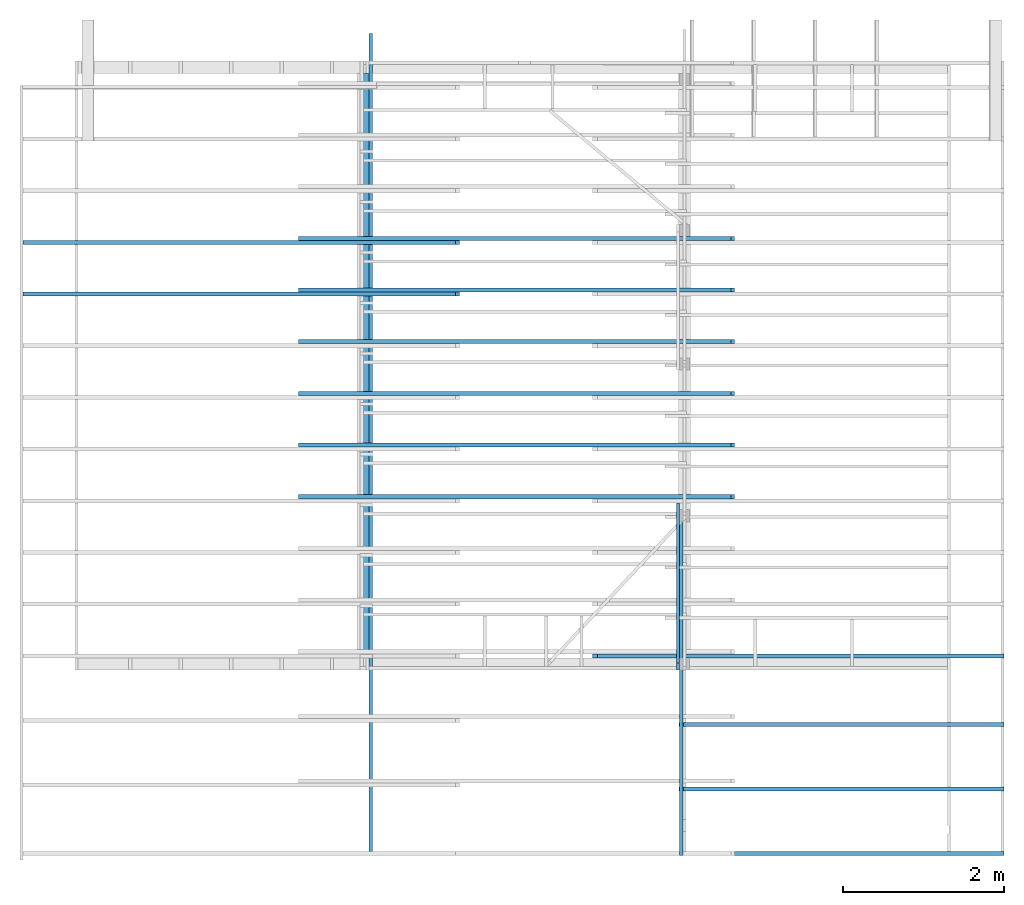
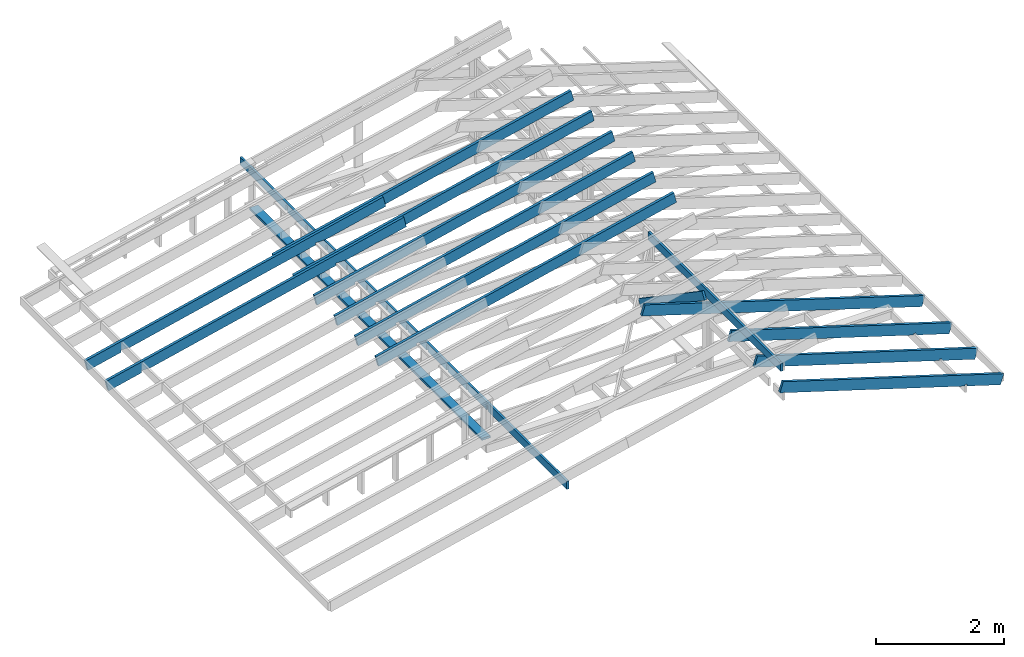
# One storey, part 3 of 6: 16 beams.
"""IFC4 building model written with IfcOpenShell, lengths in millimetres."""

import ifcopenshell
import ifcopenshell.guid

model = None  # the IFC model being written
_history = None  # IfcOwnerHistory: only IFC2X3 demands one
_inside = {}  # id of a spatial element -> (the spatial element, [elements in it])
_under = {}  # id of a project, library or spatial element -> (it, [spatial elements below it])
_declared = {}  # id of a project -> (the project, [libraries it declares])
_typed = {}  # id of a type object -> (the type object, [elements of that type])
_made_of = {}  # id of a material, layer set ... -> (it, [elements and type objects made of it])


def new_model(schema):
    """Start an empty IFC model of exactly this schema.

    Asked for "IFC4X3", IfcOpenShell would pick the latest addendum, in which some entities
    have other attributes; the version numbers below select the first issue.
    IFC2X3 requires an IfcOwnerHistory on every rooted entity: one is made here for all.
    """
    global model, _history
    if schema == "IFC4X3":
        model = ifcopenshell.file(schema_version=(4, 3, 0, 0))
    else:
        model = ifcopenshell.file(schema=schema)
    _inside.clear()
    _under.clear()
    _declared.clear()
    _typed.clear()
    _made_of.clear()
    _history = None
    if model.schema == "IFC2X3":
        org = make("IfcOrganization", Name="unknown")
        user = make(
            "IfcPersonAndOrganization",
            ThePerson=make("IfcPerson", FamilyName="unknown"),
            TheOrganization=org,
        )
        app = make(
            "IfcApplication",
            ApplicationDeveloper=org,
            Version="unknown",
            ApplicationFullName="unknown",
            ApplicationIdentifier="unknown",
        )
        _history = make(
            "IfcOwnerHistory",
            OwningUser=user,
            OwningApplication=app,
            ChangeAction="ADDED",
            CreationDate=0,
        )
    return model


def make(cls, **values):
    """One entity of the class cls with the attributes given. An attribute that is None is left unset."""
    return model.create_entity(
        cls, **{name: value for name, value in values.items() if value is not None}
    )


def rooted(cls, **values):
    """An entity with a GlobalId (a new one), such as an element, a storey or a relation."""
    return make(cls, GlobalId=ifcopenshell.guid.new(), OwnerHistory=_history, **values)


def si_unit(unit_type, name, prefix=None):
    """IfcSIUnit, for example si_unit("LENGTHUNIT", "METRE", prefix="MILLI")."""
    return make("IfcSIUnit", UnitType=unit_type, Prefix=prefix, Name=name)


def derived_unit(unit_type, elements):
    """IfcDerivedUnit: a product of units, each with its exponent."""
    return make(
        "IfcDerivedUnit",
        Elements=[
            make("IfcDerivedUnitElement", Unit=unit, Exponent=power)
            for unit, power in elements
        ],
        UnitType=unit_type,
    )


def assignment(units):
    """IfcUnitAssignment: the units of a project."""
    return None if units is None else make("IfcUnitAssignment", Units=units)


def point(xyz):
    """IfcCartesianPoint."""
    return None if xyz is None else make("IfcCartesianPoint", Coordinates=xyz)


def direction(xyz):
    """IfcDirection."""
    return None if xyz is None else make("IfcDirection", DirectionRatios=xyz)


def frame(location, z_axis=None, x_axis=None):
    """IfcAxis2Placement3D, a coordinate frame: its origin and axes. An axis left out is left unset."""
    return make(
        "IfcAxis2Placement3D",
        Location=point(location),
        Axis=direction(z_axis),
        RefDirection=direction(x_axis),
    )


def origin_with_axes():
    """The frame at (0, 0, 0) with the z axis (0, 0, 1) and the x axis (1, 0, 0) written out."""
    return frame((0.0, 0.0, 0.0), z_axis=(0.0, 0.0, 1.0), x_axis=(1.0, 0.0, 0.0))


def place(relative_to, where):
    """IfcLocalPlacement: puts the frame where relative to a parent placement (None: the world)."""
    return make(
        "IfcLocalPlacement", PlacementRelTo=relative_to, RelativePlacement=where
    )


def context(
    kind, dimensions, precision=None, world=None, true_north=None, identifier=None
):
    """IfcGeometricRepresentationContext, for example the 3D "Model" context."""
    return make(
        "IfcGeometricRepresentationContext",
        ContextIdentifier=identifier,
        ContextType=kind,
        CoordinateSpaceDimension=dimensions,
        Precision=precision,
        WorldCoordinateSystem=world,
        TrueNorth=true_north,
    )


def subcontext(parent, identifier, kind, view, scale=None):
    """IfcGeometricRepresentationSubContext, for example "Body" below "Model"."""
    return make(
        "IfcGeometricRepresentationSubContext",
        ContextIdentifier=identifier,
        ContextType=kind,
        ParentContext=parent,
        TargetScale=scale,
        TargetView=view,
    )


def project(units=None, contexts=None):
    """IfcProject with its units and contexts."""
    return rooted(
        "IfcProject",
        Name="project",
        RepresentationContexts=contexts,
        UnitsInContext=assignment(units),
    )


def spatial(cls, under=None, at=None, **own):
    """A site, building, storey or space (cls), placed at a placement, below another one or the project."""
    s = rooted(cls, ObjectPlacement=at, **own)
    if under is not None:
        _under.setdefault(under.id(), (under, []))[1].append(s)
    return s


def point_list(points):
    """IfcCartesianPointList2D or 3D."""
    cls = (
        "IfcCartesianPointList2D" if len(points[0]) == 2 else "IfcCartesianPointList3D"
    )
    return make(cls, CoordList=points)


def polygons(points, faces, closed=None, point_numbers=None):
    """IfcPolygonalFaceSet: a face is its outer loop, then its inner loops; points numbered from 1."""
    made = []
    for loops in faces:
        if len(loops) == 1:
            made.append(make("IfcIndexedPolygonalFace", CoordIndex=loops[0]))
        else:
            made.append(
                make(
                    "IfcIndexedPolygonalFaceWithVoids",
                    CoordIndex=loops[0],
                    InnerCoordIndices=loops[1:],
                )
            )
    return make(
        "IfcPolygonalFaceSet",
        Coordinates=point_list(points),
        Closed=closed,
        Faces=made,
        PnIndex=point_numbers,
    )


def shape(context_of_items, identifier, shape_type, items):
    """IfcShapeRepresentation: the items that make up one representation, for example the "Body"."""
    return make(
        "IfcShapeRepresentation",
        ContextOfItems=context_of_items,
        RepresentationIdentifier=identifier,
        RepresentationType=shape_type,
        Items=items,
    )


def source(mapping_origin, context_of_items, identifier, shape_type, items):
    """IfcRepresentationMap: a shape defined once, which mapped items show again and again."""
    return make(
        "IfcRepresentationMap",
        MappingOrigin=mapping_origin,
        MappedRepresentation=shape(context_of_items, identifier, shape_type, items),
    )


def transform(
    local_origin,
    x_axis=None,
    y_axis=None,
    z_axis=None,
    scale=None,
    scale2=None,
    scale3=None,
    uniform=True,
):
    """IfcCartesianTransformationOperator3D, or its non-uniform kind. x_axis, y_axis, z_axis: its Axis1, 2, 3."""
    if uniform:
        return make(
            "IfcCartesianTransformationOperator3D",
            Axis1=direction(x_axis),
            Axis2=direction(y_axis),
            LocalOrigin=point(local_origin),
            Scale=scale,
            Axis3=direction(z_axis),
        )
    return make(
        "IfcCartesianTransformationOperator3DnonUniform",
        Axis1=direction(x_axis),
        Axis2=direction(y_axis),
        LocalOrigin=point(local_origin),
        Scale=scale,
        Axis3=direction(z_axis),
        Scale2=scale2,
        Scale3=scale3,
    )


def mapped(mapping_source, mapping_target):
    """IfcMappedItem: shows the shape of a source again, moved by a transform."""
    return make(
        "IfcMappedItem", MappingSource=mapping_source, MappingTarget=mapping_target
    )


def material(Name=None, Category=None):
    """IfcMaterial."""
    return make("IfcMaterial", Name=Name, Category=Category)


def made_of(thing, what):
    """Note that an element or type object is made of a material, layer set ...; save() writes the relation."""
    if what is not None:
        _made_of.setdefault(what.id(), (what, []))[1].append(thing)
    return thing


def type_object(cls, material=None, **own):
    """A type object (cls), such as IfcWallType, which elements share."""
    return made_of(rooted(cls, **own), material)


def element(
    cls,
    number,
    at=None,
    inside=None,
    cuts=None,
    type_object=None,
    material=None,
    context=None,
    identifier="Body",
    shape_type=None,
    held_by="IfcProductDefinitionShape",
    body=None,
    shapes=None,
    **own,
):
    """One element of the class cls, such as IfcWall. Its Tag is "e" and its number.

    at: its placement. inside: the storey or other place that contains it. cuts: it is an
    opening in that element (IfcRelVoidsElement). A single representation is given by context,
    identifier, shape_type and body (its items); several are given by shapes. held_by: the class
    of the entity that holds the representations. save() writes the other relations.
    """
    e = rooted(cls, Tag="e%d" % number, ObjectPlacement=at, **own)
    if body is not None:
        shapes = [shape(context, identifier, shape_type, body)]
    if shapes is not None:
        e.Representation = make(held_by, Representations=shapes)
    if inside is not None:
        _inside.setdefault(inside.id(), (inside, []))[1].append(e)
    if cuts is not None:
        rooted(
            "IfcRelVoidsElement", RelatingBuildingElement=cuts, RelatedOpeningElement=e
        )
    if type_object is not None:
        _typed.setdefault(type_object.id(), (type_object, []))[1].append(e)
    return made_of(e, material)


def aggregate(whole, parts):
    """IfcRelAggregates: a whole, such as a stair, and the parts it consists of."""
    return rooted("IfcRelAggregates", RelatingObject=whole, RelatedObjects=parts)


def save(model, path):
    """Write the relations noted so far, then the file.

    IfcRelAggregates (storeys below a building ...), IfcRelContainedInSpatialStructure (elements
    in a storey), IfcRelDefinesByType, IfcRelAssociatesMaterial and IfcRelDeclares: one each for
    every whole, place, type object, material and project.
    """
    for whole, parts in _under.values():
        aggregate(whole, parts)
    for where, things in _inside.values():
        rooted(
            "IfcRelContainedInSpatialStructure",
            RelatedElements=things,
            RelatingStructure=where,
        )
    for kind, things in _typed.values():
        rooted("IfcRelDefinesByType", RelatedObjects=things, RelatingType=kind)
    for what, things in _made_of.values():
        rooted("IfcRelAssociatesMaterial", RelatedObjects=things, RelatingMaterial=what)
    for by, libraries in _declared.values():
        rooted("IfcRelDeclares", RelatingContext=by, RelatedDefinitions=libraries)
    model.write(path)


model = new_model("IFC4")

# Units and contexts
model_context = context("Model", 3, precision=1e-06, world=origin_with_axes())
body_context = subcontext(model_context, "Body", "Model", "MODEL_VIEW")
ifc_project = project(units=[si_unit("LENGTHUNIT", "METRE", prefix="MILLI"), si_unit("AREAUNIT", "SQUARE_METRE"), si_unit("VOLUMEUNIT", "CUBIC_METRE"), si_unit("MASSUNIT", "GRAM", prefix="KILO"), si_unit("ELECTRICVOLTAGEUNIT", "VOLT", prefix="KILO"), si_unit("THERMODYNAMICTEMPERATUREUNIT", "DEGREE_CELSIUS"), si_unit("PRESSUREUNIT", "PASCAL", prefix="MEGA"), si_unit("PLANEANGLEUNIT", "RADIAN"), derived_unit("THERMALCONDUCTANCEUNIT", [(si_unit("POWERUNIT", "WATT"), 1), (si_unit("LENGTHUNIT", "METRE"), -1), (si_unit("THERMODYNAMICTEMPERATUREUNIT", "KELVIN"), -1)]), derived_unit("MASSDENSITYUNIT", [(si_unit("MASSUNIT", "GRAM", prefix="KILO"), 1), (si_unit("VOLUMEUNIT", "CUBIC_METRE"), -1)])], contexts=[model_context])

# Site, building, storey
site_placement = place(None, origin_with_axes())
site = spatial("IfcSite", under=ifc_project, at=site_placement, CompositionType="ELEMENT")
building_placement = place(site_placement, origin_with_axes())
building = spatial("IfcBuilding", under=site, at=building_placement, CompositionType="ELEMENT")
storey_placement = place(building_placement, frame((0.0, 0.0, 2620.0), z_axis=(0.0, 0.0, 1.0), x_axis=(1.0, 0.0, 0.0)))
storey = spatial("IfcBuildingStorey", under=building, at=storey_placement, Name="Кровля", CompositionType="ELEMENT", Elevation=2620.0)

# Beams
ifc_material_1 = material(Name="Древесина оранж")
beam_type_1 = type_object("IfcBeamType", Name="Доска 50х200", PredefinedType="BEAM")
shared_shape_1 = source(origin_with_axes(), body_context, "Body", "Tessellation", [
    polygons([(-8e-15, -1.99e-13, -4607.7351247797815), (-9.09e-13, 22.174739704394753, -4600.75673698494), (-9.09e-13, 34.182184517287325, -4638.911962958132), (-8e-15, -2.04e-13, -4649.669092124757), (0.0, 0.0, -5278.678602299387), (-2.8e-14, 200.0000000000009, -5278.678602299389), (-2.8e-14, 199.9999999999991, -9.09e-13), (0.0, 0.0, 0.0), (-50.00000000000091, 22.174739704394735, -4600.75673698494), (-50.0, -9.9e-14, -4607.7351247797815), (-50.0, 0.0, 0.0), (-50.00000000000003, 199.9999999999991, -9.09e-13), (-50.00000000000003, 200.0000000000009, -5278.678602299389), (-50.0, 0.0, -5278.678602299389), (-50.0, -1e-13, -4649.669092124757), (-50.000000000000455, 34.18218451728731, -4638.911962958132)], [[[1, 2, 3, 4, 5, 6, 7, 8]], [[9, 10, 11, 12, 13, 14, 15, 16]], [[10, 1, 8, 11]], [[4, 15, 14, 5]], [[15, 4, 3, 16]], [[9, 16, 3, 2]], [[1, 10, 9, 2]], [[5, 14, 13, 6]], [[12, 7, 6, 13]], [[8, 7, 12, 11]]], closed=True),
])
beam_1_placement = place(storey_placement, frame((6409.770627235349, 149.99999999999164, 1509.9312603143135), z_axis=(-0.953880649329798, 1e-15, 0.300186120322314), x_axis=(0.300186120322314, 0.0, 0.953880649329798)))
element("IfcBeam", 1, at=beam_1_placement, inside=storey, type_object=beam_type_1, material=ifc_material_1, Name="Балка - Доска 50х200", context=body_context, shape_type="MappedRepresentation", body=[
    mapped(shared_shape_1, transform((0.0, 0.0, 0.0), x_axis=(0.0, -1.0, 0.0), y_axis=(1.0, 0.0, 0.0), z_axis=(0.0, 0.0, 1.0), scale=1.0)),
])
ifc_material_2 = material(Name="Древесина конструктивная")
beam_type_2 = type_object("IfcBeamType", Name="Доска 40х150", PredefinedType="BEAM")
shared_shape_2 = source(origin_with_axes(), body_context, "Body", "Tessellation", [
    polygons([(-150.0, 0.0, 0.0), (-150.0, 40.0, 0.0), (-150.0, 40.0, -7239.999999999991), (-150.0, 0.0, -7239.999999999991), (0.0, 40.0, 0.0), (0.0, 40.0, -7239.999999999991), (0.0, 0.0, 0.0), (0.0, 0.0, -7239.999999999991)], [[[1, 2, 3, 4]], [[2, 5, 6, 3]], [[5, 7, 8, 6]], [[7, 1, 4, 8]], [[4, 3, 6, 8]], [[1, 7, 5, 2]]], closed=True),
])
beam_2_placement = place(storey_placement, frame((3532.5, 7389.99999999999, 150.0), z_axis=(0.0, 1.0, 0.0), x_axis=(-1.0, 0.0, 0.0)))
element("IfcBeam", 2, at=beam_2_placement, inside=storey, type_object=beam_type_2, material=ifc_material_2, Name="Балка - Доска 40х150", context=body_context, shape_type="MappedRepresentation", body=[
    mapped(shared_shape_2, transform((0.0, 0.0, 0.0), x_axis=(1.0, 0.0, 0.0), y_axis=(0.0, 1.0, 0.0), z_axis=(0.0, 0.0, 1.0), scale=1.0)),
])
ifc_material_3 = material(Name="Древесина жел")
shared_shape_3 = source(origin_with_axes(), body_context, "Body", "Tessellation", [
    polygons([(20.0, 0.0, -2450.0000000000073), (20.000000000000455, 109.50802590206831, -2450.0000000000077), (20.000000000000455, 109.50802590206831, -2490.0000000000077), (20.0, 0.0, -2490.0000000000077), (20.0, 0.0, -3075.0000000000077), (20.000000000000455, 109.50802590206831, -3075.0000000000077), (20.000000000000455, 109.50802590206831, -3115.0000000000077), (20.0, 0.0, -3115.0000000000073), (20.0, 0.0, -3700.0000000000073), (20.000000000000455, 109.50802590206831, -3700.0000000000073), (20.000000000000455, 109.50802590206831, -3740.0000000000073), (20.0, 0.0, -3740.0000000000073), (20.0, 0.0, -4325.000000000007), (20.000000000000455, 109.50802590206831, -4325.000000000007), (20.000000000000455, 109.50802590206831, -4365.000000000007), (20.0, 0.0, -4365.000000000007), (20.0, 0.0, -4950.000000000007), (20.000000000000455, 109.50802590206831, -4950.000000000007), (20.000000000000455, 109.50802590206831, -4990.000000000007), (20.0, 0.0, -4990.000000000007), (20.0, 0.0, -5575.000000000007), (20.000000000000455, 109.50802590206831, -5575.000000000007), (20.000000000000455, 109.50802590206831, -5615.000000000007), (20.0, 0.0, -5615.000000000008), (20.0, 0.0, -6200.000000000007), (20.000000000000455, 109.50802590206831, -6200.000000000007), (20.000000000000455, 109.50802590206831, -6240.000000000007), (20.0, 0.0, -6240.000000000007), (20.0, 0.0, -6825.000000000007), (20.000000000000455, 109.50802590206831, -6825.000000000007), (20.000000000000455, 109.50802590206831, -6865.000000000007), (20.0, 1.4e-14, -6865.000000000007), (20.0, 0.0, -7450.000000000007), (20.000000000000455, 109.50802590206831, -7450.000000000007), (20.000000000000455, 109.50802590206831, -7490.000000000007), (20.0, 0.0, -7490.000000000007), (20.0, 0.0, -8075.000000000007), (20.000000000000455, 109.50802590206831, -8075.000000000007), (20.000000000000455, 109.50802590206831, -8115.000000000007), (20.0, 0.0, -8115.000000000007), (20.0, 0.0, -8700.000000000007), (20.000000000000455, 109.50802590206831, -8700.000000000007), (20.000000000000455, 109.50802590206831, -8740.000000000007), (20.0, 0.0, -8740.000000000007), (20.0, 0.0, -10179.99999999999), (20.0, 150.0, -10179.99999999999), (20.0, 150.0, 0.0), (20.0, 0.0, 0.0), (-20.0, 109.50802590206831, -2450.0000000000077), (-20.0, 0.0, -2450.0000000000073), (-20.0, 0.0, 0.0), (-20.0, 150.0, 0.0), (-20.0, 150.0, -10179.99999999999), (-20.0, 0.0, -10179.99999999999), (-19.999999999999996, 0.0, -8740.000000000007), (-20.0, 109.50802590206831, -8740.000000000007), (-20.0, 109.50802590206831, -8700.000000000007), (-19.999999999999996, 0.0, -8700.000000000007), (-19.999999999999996, 0.0, -8115.000000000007), (-20.0, 109.50802590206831, -8115.000000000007), (-20.0, 109.50802590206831, -8075.000000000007), (-20.0, 0.0, -8075.000000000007), (-20.0, 0.0, -7490.000000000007), (-20.0, 109.50802590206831, -7490.000000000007), (-20.0, 109.50802590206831, -7450.000000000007), (-20.0, 0.0, -7450.000000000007), (-20.0, 0.0, -6865.000000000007), (-20.0, 109.50802590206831, -6865.000000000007), (-20.0, 109.50802590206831, -6825.000000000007), (-20.0, 0.0, -6825.000000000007), (-20.0, 0.0, -6240.000000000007), (-20.0, 109.50802590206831, -6240.000000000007), (-20.0, 109.50802590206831, -6200.000000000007), (-20.0, 0.0, -6200.000000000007), (-20.0, 0.0, -5615.000000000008), (-20.0, 109.50802590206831, -5615.000000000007), (-20.0, 109.50802590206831, -5575.000000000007), (-20.0, 0.0, -5575.000000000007), (-20.0, 0.0, -4990.000000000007), (-20.0, 109.50802590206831, -4990.000000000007), (-20.0, 109.50802590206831, -4950.000000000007), (-20.0, 0.0, -4950.000000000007), (-19.999999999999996, 0.0, -4365.000000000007), (-20.0, 109.50802590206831, -4365.000000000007), (-20.0, 109.50802590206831, -4325.000000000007), (-20.0, 0.0, -4325.000000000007), (-20.0, 0.0, -3740.0000000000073), (-20.0, 109.50802590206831, -3740.0000000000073), (-20.0, 109.50802590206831, -3700.0000000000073), (-20.0, 0.0, -3700.0000000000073), (-20.0, 0.0, -3115.0000000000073), (-20.0, 109.50802590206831, -3115.0000000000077), (-20.0, 109.50802590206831, -3075.0000000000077), (-20.0, 0.0, -3075.0000000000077), (-20.0, 0.0, -2490.0000000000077), (-20.0, 109.50802590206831, -2490.0000000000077)], [[[1, 2, 3, 4, 5, 6, 7, 8, 9, 10, 11, 12, 13, 14, 15, 16, 17, 18, 19, 20, 21, 22, 23, 24, 25, 26, 27, 28, 29, 30, 31, 32, 33, 34, 35, 36, 37, 38, 39, 40, 41, 42, 43, 44, 45, 46, 47, 48]], [[49, 50, 51, 52, 53, 54, 55, 56, 57, 58, 59, 60, 61, 62, 63, 64, 65, 66, 67, 68, 69, 70, 71, 72, 73, 74, 75, 76, 77, 78, 79, 80, 81, 82, 83, 84, 85, 86, 87, 88, 89, 90, 91, 92, 93, 94, 95, 96]], [[50, 1, 48, 51]], [[4, 95, 94, 5]], [[8, 91, 90, 9]], [[12, 87, 86, 13]], [[16, 83, 82, 17]], [[20, 79, 78, 21]], [[24, 75, 74, 25]], [[28, 71, 70, 29]], [[32, 67, 66, 33]], [[36, 63, 62, 37]], [[40, 59, 58, 41]], [[44, 55, 54, 45]], [[57, 56, 43, 42]], [[55, 44, 43, 56]], [[41, 58, 57, 42]], [[61, 60, 39, 38]], [[59, 40, 39, 60]], [[37, 62, 61, 38]], [[65, 64, 35, 34]], [[63, 36, 35, 64]], [[33, 66, 65, 34]], [[69, 68, 31, 30]], [[67, 32, 31, 68]], [[29, 70, 69, 30]], [[73, 72, 27, 26]], [[71, 28, 27, 72]], [[25, 74, 73, 26]], [[77, 76, 23, 22]], [[75, 24, 23, 76]], [[21, 78, 77, 22]], [[81, 80, 19, 18]], [[79, 20, 19, 80]], [[17, 82, 81, 18]], [[85, 84, 15, 14]], [[83, 16, 15, 84]], [[13, 86, 85, 14]], [[89, 88, 11, 10]], [[87, 12, 11, 88]], [[9, 90, 89, 10]], [[93, 92, 7, 6]], [[91, 8, 7, 92]], [[5, 94, 93, 6]], [[49, 96, 3, 2]], [[95, 4, 3, 96]], [[1, 50, 49, 2]], [[45, 54, 53, 46]], [[52, 47, 46, 53]], [[48, 47, 52, 51]]], closed=True),
])
beam_3_placement = place(storey_placement, frame((3662.4999999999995, -2300.000000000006, 667.4919740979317), z_axis=(0.0, -1.0, 0.0), x_axis=(0.0, 0.0, 1.0)))
element("IfcBeam", 3, at=beam_3_placement, inside=storey, type_object=beam_type_2, material=ifc_material_3, Name="Балка - Доска 40х150", context=body_context, shape_type="MappedRepresentation", body=[
    mapped(shared_shape_3, transform((0.0, 0.0, 0.0), x_axis=(0.0, -1.0, 0.0), y_axis=(1.0, 0.0, 0.0), z_axis=(0.0, 0.0, 1.0), scale=1.0)),
])
shared_shape_4 = source(origin_with_axes(), body_context, "Body", "Tessellation", [
    polygons([(-2e-15, 1.926868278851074, -2398.2811635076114), (-15.0, 1.926868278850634, -2398.2811635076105), (-15.000000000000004, -5.6e-13, -2398.2811635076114), (-40.0, -9.09e-13, -2398.2811635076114), (-40.0, 149.99999999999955, -2398.2811635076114), (0.0, 149.9999999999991, -2398.2811635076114), (0.0, -7.12e-13, -2395.4393860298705), (0.0, 149.9999999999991, -4.55e-13), (0.0, 0.0, 0.0), (-15.0, -9.09e-13, -2395.4393860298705), (-40.0, 0.0, 0.0), (-40.0, 149.9999999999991, -4.55e-13)], [[[1, 2, 3, 4, 5, 6]], [[7, 1, 6, 8, 9]], [[10, 7, 9, 11, 4, 3]], [[10, 3, 2]], [[7, 10, 2, 1]], [[11, 12, 5, 4]], [[12, 8, 6, 5]], [[9, 8, 12, 11]]], closed=True),
])
beam_4_placement = place(storey_placement, frame((7490.0, -1.0488e-11, 1534.335167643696), z_axis=(0.0, -0.827676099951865, 0.561206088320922), x_axis=(0.0, 0.561206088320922, 0.827676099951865)))
element("IfcBeam", 4, at=beam_4_placement, inside=storey, type_object=beam_type_2, material=ifc_material_3, Name="Балка - Доска 40х150", context=body_context, shape_type="MappedRepresentation", body=[
    mapped(shared_shape_4, transform((0.0, 0.0, 0.0), x_axis=(0.0, -1.0, 0.0), y_axis=(1.0, 0.0, 0.0), z_axis=(0.0, 0.0, 1.0), scale=1.0)),
])
shared_shape_5 = source(origin_with_axes(), body_context, "Body", "Tessellation", [
    polygons([(50.00000000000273, 43.089841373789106, -707.6329538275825), (50.0, 2.06e-13, -892.682313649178), (50.0, 4.55e-13, -5499.999999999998), (50.0, 200.00000000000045, -5500.000000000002), (50.0, 200.00000000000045, 0.0), (50.0, 0.0, 0.0), (50.0, 2.08e-13, -716.3066353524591), (50.00000000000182, 4.132081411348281, -698.5614082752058), (-2e-15, -1.9e-14, -892.6823136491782), (1.819e-12, 43.089841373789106, -707.6329538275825), (2.728e-12, 4.132081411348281, -698.5614082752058), (-2e-15, -1.6e-14, -716.3066353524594), (0.0, 0.0, 0.0), (0.0, 200.00000000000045, 0.0), (0.0, 200.0000000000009, -5499.999999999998), (0.0, 0.0, -5500.0)], [[[1, 2, 3, 4, 5, 6, 7, 8]], [[9, 10, 11, 12, 13, 14, 15, 16]], [[2, 9, 16, 3]], [[12, 7, 6, 13]], [[11, 10, 1, 8]], [[7, 12, 11, 8]], [[9, 2, 1, 10]], [[3, 16, 15, 4]], [[14, 5, 4, 15]], [[6, 5, 14, 13]]], closed=True),
])
beam_5_placement = place(storey_placement, frame((2813.077417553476, 2169.9999999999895, 615.0417672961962), z_axis=(-0.973943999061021, 0.0, -0.226788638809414), x_axis=(-0.226788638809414, 0.0, 0.973943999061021)))
element("IfcBeam", 5, at=beam_5_placement, inside=storey, type_object=beam_type_1, material=ifc_material_1, Name="Балка - Доска 50х200", context=body_context, shape_type="MappedRepresentation", body=[
    mapped(shared_shape_5, transform((0.0, 0.0, 0.0), x_axis=(0.0, -1.0, 0.0), y_axis=(1.0, 0.0, 0.0), z_axis=(0.0, 0.0, 1.0), scale=1.0)),
])
shared_shape_6 = source(origin_with_axes(), body_context, "Body", "Tessellation", [
    polygons([(50.00000000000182, 43.089841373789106, -707.6329538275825), (50.0, 2.06e-13, -892.682313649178), (50.0, 4.55e-13, -5499.999999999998), (50.0, 200.00000000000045, -5500.000000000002), (50.0, 200.00000000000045, 0.0), (50.0, 0.0, 0.0), (50.0, 2.08e-13, -716.3066353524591), (50.00000000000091, 4.132081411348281, -698.5614082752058), (-2e-15, -1.9e-14, -892.6823136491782), (1.819e-12, 43.089841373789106, -707.6329538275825), (2.728e-12, 4.132081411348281, -698.5614082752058), (-2e-15, -1.6e-14, -716.3066353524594), (0.0, 0.0, 0.0), (0.0, 200.00000000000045, 0.0), (0.0, 200.0000000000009, -5499.999999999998), (0.0, 0.0, -5500.0)], [[[1, 2, 3, 4, 5, 6, 7, 8]], [[9, 10, 11, 12, 13, 14, 15, 16]], [[2, 9, 16, 3]], [[12, 7, 6, 13]], [[11, 10, 1, 8]], [[7, 12, 11, 8]], [[9, 2, 1, 10]], [[3, 16, 15, 4]], [[14, 5, 4, 15]], [[6, 5, 14, 13]]], closed=True),
])
beam_6_placement = place(storey_placement, frame((2813.077417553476, 2809.9999999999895, 615.0417672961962), z_axis=(-0.973943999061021, 0.0, -0.226788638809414), x_axis=(-0.226788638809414, 0.0, 0.973943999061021)))
element("IfcBeam", 6, at=beam_6_placement, inside=storey, type_object=beam_type_1, material=ifc_material_1, Name="Балка - Доска 50х200", context=body_context, shape_type="MappedRepresentation", body=[
    mapped(shared_shape_6, transform((0.0, 0.0, 0.0), x_axis=(0.0, -1.0, 0.0), y_axis=(1.0, 0.0, 0.0), z_axis=(0.0, 0.0, 1.0), scale=1.0)),
])
shared_shape_7 = source(origin_with_axes(), body_context, "Body", "Tessellation", [
    polygons([(50.00000000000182, 43.089841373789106, -707.6329538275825), (50.0, 2.06e-13, -892.682313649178), (50.0, 4.55e-13, -5499.999999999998), (50.0, 200.00000000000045, -5500.000000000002), (50.0, 200.00000000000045, 0.0), (50.0, 0.0, 0.0), (50.0, 2.08e-13, -716.3066353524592), (50.00000000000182, 4.132081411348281, -698.5614082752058), (-2e-15, -1.9e-14, -892.6823136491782), (1.819e-12, 43.089841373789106, -707.6329538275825), (1.819e-12, 4.132081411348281, -698.5614082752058), (-2e-15, -1.6e-14, -716.3066353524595), (0.0, 0.0, 0.0), (0.0, 200.00000000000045, 0.0), (0.0, 200.0000000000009, -5499.999999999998), (0.0, 0.0, -5500.0)], [[[1, 2, 3, 4, 5, 6, 7, 8]], [[9, 10, 11, 12, 13, 14, 15, 16]], [[2, 9, 16, 3]], [[12, 7, 6, 13]], [[11, 10, 1, 8]], [[7, 12, 11, 8]], [[9, 2, 1, 10]], [[3, 16, 15, 4]], [[14, 5, 4, 15]], [[6, 5, 14, 13]]], closed=True),
])
beam_7_placement = place(storey_placement, frame((2813.077417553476, 3449.9999999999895, 615.0417672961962), z_axis=(-0.973943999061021, 0.0, -0.226788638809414), x_axis=(-0.226788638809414, 0.0, 0.973943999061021)))
element("IfcBeam", 7, at=beam_7_placement, inside=storey, type_object=beam_type_1, material=ifc_material_1, Name="Балка - Доска 50х200", context=body_context, shape_type="MappedRepresentation", body=[
    mapped(shared_shape_7, transform((0.0, 0.0, 0.0), x_axis=(0.0, -1.0, 0.0), y_axis=(1.0, 0.0, 0.0), z_axis=(0.0, 0.0, 1.0), scale=1.0)),
])
shared_shape_8 = source(origin_with_axes(), body_context, "Body", "Tessellation", [
    polygons([(50.000000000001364, 43.089841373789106, -707.6329538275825), (50.0, 2.06e-13, -892.682313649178), (50.0, 4.55e-13, -5499.999999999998), (50.0, 200.00000000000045, -5500.000000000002), (50.0, 200.00000000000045, 0.0), (50.0, 0.0, 0.0), (50.0, 2.08e-13, -716.3066353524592), (50.000000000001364, 4.132081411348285, -698.5614082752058), (-2e-15, -1.9e-14, -892.6823136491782), (1.819e-12, 43.089841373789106, -707.6329538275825), (1.819e-12, 4.132081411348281, -698.5614082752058), (-2e-15, -1.6e-14, -716.3066353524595), (0.0, 0.0, 0.0), (0.0, 200.00000000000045, 0.0), (0.0, 200.0000000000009, -5499.999999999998), (0.0, 0.0, -5500.0)], [[[1, 2, 3, 4, 5, 6, 7, 8]], [[9, 10, 11, 12, 13, 14, 15, 16]], [[2, 9, 16, 3]], [[12, 7, 6, 13]], [[11, 10, 1, 8]], [[7, 12, 11, 8]], [[9, 2, 1, 10]], [[3, 16, 15, 4]], [[14, 5, 4, 15]], [[6, 5, 14, 13]]], closed=True),
])
beam_8_placement = place(storey_placement, frame((2813.077417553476, 4089.9999999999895, 615.0417672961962), z_axis=(-0.973943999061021, 0.0, -0.226788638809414), x_axis=(-0.226788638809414, 0.0, 0.973943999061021)))
element("IfcBeam", 8, at=beam_8_placement, inside=storey, type_object=beam_type_1, material=ifc_material_1, Name="Балка - Доска 50х200", context=body_context, shape_type="MappedRepresentation", body=[
    mapped(shared_shape_8, transform((0.0, 0.0, 0.0), x_axis=(0.0, -1.0, 0.0), y_axis=(1.0, 0.0, 0.0), z_axis=(0.0, 0.0, 1.0), scale=1.0)),
])
shared_shape_9 = source(origin_with_axes(), body_context, "Body", "Tessellation", [
    polygons([(50.00000000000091, 43.089841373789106, -707.6329538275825), (50.0, 2.06e-13, -892.682313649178), (50.0, 4.55e-13, -5499.999999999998), (50.0, 200.00000000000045, -5500.000000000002), (50.0, 200.00000000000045, 0.0), (50.0, 0.0, 0.0), (50.0, 2.08e-13, -716.3066353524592), (50.000000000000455, 4.132081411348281, -698.5614082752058), (-2e-15, -1.9e-14, -892.6823136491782), (9.09e-13, 43.089841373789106, -707.6329538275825), (1.364e-12, 4.132081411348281, -698.5614082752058), (-2e-15, -1.6e-14, -716.3066353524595), (0.0, 0.0, 0.0), (0.0, 200.00000000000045, 0.0), (0.0, 200.0000000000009, -5499.999999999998), (0.0, 0.0, -5500.0)], [[[1, 2, 3, 4, 5, 6, 7, 8]], [[9, 10, 11, 12, 13, 14, 15, 16]], [[2, 9, 16, 3]], [[12, 7, 6, 13]], [[11, 10, 1, 8]], [[7, 12, 11, 8]], [[9, 2, 1, 10]], [[3, 16, 15, 4]], [[14, 5, 4, 15]], [[6, 5, 14, 13]]], closed=True),
])
beam_9_placement = place(storey_placement, frame((2813.077417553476, 4729.999999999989, 615.0417672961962), z_axis=(-0.973943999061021, 0.0, -0.226788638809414), x_axis=(-0.226788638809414, 0.0, 0.973943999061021)))
element("IfcBeam", 9, at=beam_9_placement, inside=storey, type_object=beam_type_1, material=ifc_material_1, Name="Балка - Доска 50х200", context=body_context, shape_type="MappedRepresentation", body=[
    mapped(shared_shape_9, transform((0.0, 0.0, 0.0), x_axis=(0.0, -1.0, 0.0), y_axis=(1.0, 0.0, 0.0), z_axis=(0.0, 0.0, 1.0), scale=1.0)),
])
shared_shape_10 = source(origin_with_axes(), body_context, "Body", "Tessellation", [
    polygons([(0.0, -2.76e-13, -611.6640995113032), (-1.819e-12, 38.957759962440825, -620.7356450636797), (-1.819e-12, 4.939464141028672, -766.8272449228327), (0.0, -2.84e-13, -765.6770613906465), (0.0, -4.61e-13, -4216.306635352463), (9.09e-13, 4.132081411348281, -4198.561408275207), (4.55e-13, 43.089841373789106, -4207.632953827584), (0.0, -4.71e-13, -4392.682313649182), (0.0, -1.364e-12, -5500.000000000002), (0.0, 199.99999999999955, -5500.000000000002), (0.0, 199.99999999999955, 0.0), (0.0, 0.0, 0.0), (-50.00000000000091, 38.957759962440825, -620.7356450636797), (-50.0, -4.7e-14, -611.6640995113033), (-50.0, 0.0, 0.0), (-50.0, 199.99999999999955, 0.0), (-50.0, 199.9999999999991, -5500.000000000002), (-50.0, -4.55e-13, -5500.000000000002), (-50.0, -3.35e-13, -4392.682313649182), (-49.99999999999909, 43.089841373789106, -4207.632953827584), (-49.999999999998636, 4.132081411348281, -4198.561408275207), (-50.0, -3.21e-13, -4216.306635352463), (-50.0, -5.8e-14, -765.6770613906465), (-50.00000000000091, 4.939464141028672, -766.8272449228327)], [[[1, 2, 3, 4, 5, 6, 7, 8, 9, 10, 11, 12]], [[13, 14, 15, 16, 17, 18, 19, 20, 21, 22, 23, 24]], [[14, 1, 12, 15]], [[4, 23, 22, 5]], [[8, 19, 18, 9]], [[21, 20, 7, 6]], [[5, 22, 21, 6]], [[19, 8, 7, 20]], [[23, 4, 3, 24]], [[13, 24, 3, 2]], [[1, 14, 13, 2]], [[9, 18, 17, 10]], [[16, 11, 10, 17]], [[12, 11, 16, 15]]], closed=True),
])
beam_10_placement = place(storey_placement, frame((-595.7265791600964, 4629.999999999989, -178.7184685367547), z_axis=(-0.973943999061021, 0.0, -0.226788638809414), x_axis=(-0.226788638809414, 0.0, 0.973943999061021)))
element("IfcBeam", 10, at=beam_10_placement, inside=storey, type_object=beam_type_1, material=ifc_material_1, Name="Балка - Доска 50х200", context=body_context, shape_type="MappedRepresentation", body=[
    mapped(shared_shape_10, transform((0.0, 0.0, 0.0), x_axis=(0.0, -1.0, 0.0), y_axis=(1.0, 0.0, 0.0), z_axis=(0.0, 0.0, 1.0), scale=1.0)),
])
shared_shape_11 = source(origin_with_axes(), body_context, "Body", "Tessellation", [
    polygons([(50.00000000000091, 43.089841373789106, -707.6329538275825), (50.0, 2.06e-13, -892.682313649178), (50.0, 4.55e-13, -5499.999999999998), (50.0, 200.00000000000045, -5500.000000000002), (50.0, 200.00000000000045, 0.0), (50.0, 0.0, 0.0), (50.0, 2.08e-13, -716.3066353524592), (50.00000000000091, 4.132081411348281, -698.5614082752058), (-2e-15, -1.9e-14, -892.6823136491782), (6.82e-13, 43.089841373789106, -707.6329538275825), (1.137e-12, 4.132081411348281, -698.5614082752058), (-2e-15, -1.6e-14, -716.3066353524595), (0.0, 0.0, 0.0), (0.0, 200.00000000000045, 0.0), (0.0, 200.0000000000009, -5499.999999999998), (0.0, 0.0, -5500.0)], [[[1, 2, 3, 4, 5, 6, 7, 8]], [[9, 10, 11, 12, 13, 14, 15, 16]], [[2, 9, 16, 3]], [[12, 7, 6, 13]], [[11, 10, 1, 8]], [[7, 12, 11, 8]], [[9, 2, 1, 10]], [[3, 16, 15, 4]], [[14, 5, 4, 15]], [[6, 5, 14, 13]]], closed=True),
])
beam_11_placement = place(storey_placement, frame((2813.077417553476, 5369.999999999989, 615.0417672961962), z_axis=(-0.973943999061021, 0.0, -0.226788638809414), x_axis=(-0.226788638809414, 0.0, 0.973943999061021)))
element("IfcBeam", 11, at=beam_11_placement, inside=storey, type_object=beam_type_1, material=ifc_material_1, Name="Балка - Доска 50х200", context=body_context, shape_type="MappedRepresentation", body=[
    mapped(shared_shape_11, transform((0.0, 0.0, 0.0), x_axis=(0.0, -1.0, 0.0), y_axis=(1.0, 0.0, 0.0), z_axis=(0.0, 0.0, 1.0), scale=1.0)),
])
shared_shape_12 = source(origin_with_axes(), body_context, "Body", "Tessellation", [
    polygons([(0.0, -2.76e-13, -611.6640995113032), (-1.819e-12, 38.957759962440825, -620.7356450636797), (-1.819e-12, 4.939464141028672, -766.8272449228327), (0.0, -2.84e-13, -765.6770613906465), (0.0, -4.61e-13, -4216.306635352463), (9.09e-13, 4.132081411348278, -4198.561408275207), (9.09e-13, 43.089841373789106, -4207.632953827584), (0.0, -4.71e-13, -4392.682313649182), (0.0, -1.364e-12, -5500.000000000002), (0.0, 199.99999999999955, -5500.000000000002), (0.0, 199.99999999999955, 0.0), (0.0, 0.0, 0.0), (-50.00000000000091, 38.957759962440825, -620.7356450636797), (-50.0, -4.7e-14, -611.6640995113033), (-50.0, 0.0, 0.0), (-50.0, 199.99999999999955, 0.0), (-50.0, 199.9999999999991, -5500.000000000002), (-50.0, -4.55e-13, -5500.000000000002), (-50.0, -3.35e-13, -4392.682313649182), (-49.99999999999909, 43.089841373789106, -4207.632953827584), (-49.99999999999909, 4.132081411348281, -4198.561408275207), (-50.0, -3.21e-13, -4216.306635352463), (-50.0, -5.8e-14, -765.6770613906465), (-50.00000000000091, 4.939464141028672, -766.8272449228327)], [[[1, 2, 3, 4, 5, 6, 7, 8, 9, 10, 11, 12]], [[13, 14, 15, 16, 17, 18, 19, 20, 21, 22, 23, 24]], [[14, 1, 12, 15]], [[4, 23, 22, 5]], [[8, 19, 18, 9]], [[21, 20, 7, 6]], [[5, 22, 21, 6]], [[19, 8, 7, 20]], [[23, 4, 3, 24]], [[13, 24, 3, 2]], [[1, 14, 13, 2]], [[9, 18, 17, 10]], [[16, 11, 10, 17]], [[12, 11, 16, 15]]], closed=True),
])
beam_12_placement = place(storey_placement, frame((-595.7265791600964, 5269.999999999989, -178.7184685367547), z_axis=(-0.973943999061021, 0.0, -0.226788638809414), x_axis=(-0.226788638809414, 0.0, 0.973943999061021)))
element("IfcBeam", 12, at=beam_12_placement, inside=storey, type_object=beam_type_1, material=ifc_material_1, Name="Балка - Доска 50х200", context=body_context, shape_type="MappedRepresentation", body=[
    mapped(shared_shape_12, transform((0.0, 0.0, 0.0), x_axis=(0.0, -1.0, 0.0), y_axis=(1.0, 0.0, 0.0), z_axis=(0.0, 0.0, 1.0), scale=1.0)),
])
ifc_material_4 = material(Name="Древесина белая крашенная")
shared_shape_13 = source(origin_with_axes(), body_context, "Body", "Tessellation", [
    polygons([(3e-15, -6.5e-13, -3483.9072238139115), (2e-15, 24.17569694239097, -3476.3774903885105), (-2e-15, 36.07046487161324, -3514.567993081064), (3e-15, -6.57e-13, -3525.8024565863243), (0.0, -9.09e-13, -4154.23094817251), (0.0, 199.9999999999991, -4154.2309481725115), (0.0, 199.9999999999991, 0.0), (0.0, 0.0, 0.0), (3e-15, -4.44e-13, -53.73504057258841), (4.52e-13, 11.89476792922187, -91.92554326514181), (3e-15, -4.51e-13, -95.63027334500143), (-49.99999999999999, 24.175696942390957, -3476.3774903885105), (-50.0, -1.17e-13, -3483.907223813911), (-50.0, -4e-15, -95.63027334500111), (-49.999999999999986, 11.894767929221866, -91.92554326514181), (-50.0, -3e-15, -53.73504057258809), (-50.0, 0.0, 0.0), (-50.0, 199.9999999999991, 0.0), (-50.0, 200.0, -4154.23094817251), (-50.0, -9.09e-13, -4154.2309481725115), (-50.0, -1.18e-13, -3525.8024565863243), (-49.99999999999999, 36.07046487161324, -3514.567993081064)], [[[1, 2, 3, 4, 5, 6, 7, 8, 9, 10, 11]], [[12, 13, 14, 15, 16, 17, 18, 19, 20, 21, 22]], [[13, 1, 11, 14]], [[4, 21, 20, 5]], [[16, 9, 8, 17]], [[14, 11, 10, 15]], [[9, 16, 15, 10]], [[21, 4, 3, 22]], [[12, 22, 3, 2]], [[1, 13, 12, 2]], [[5, 20, 19, 6]], [[18, 7, 6, 19]], [[8, 7, 18, 17]]], closed=True),
])
beam_13_placement = place(storey_placement, frame((7478.695794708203, -2300.0000000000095, 1160.6855365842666), z_axis=(-0.954762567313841, 0.0, 0.297369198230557), x_axis=(0.297369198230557, 0.0, 0.954762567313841)))
element("IfcBeam", 13, at=beam_13_placement, inside=storey, type_object=beam_type_1, material=ifc_material_4, Name="Балка - Доска 50х200", context=body_context, shape_type="MappedRepresentation", body=[
    mapped(shared_shape_13, transform((0.0, 0.0, 0.0), x_axis=(0.0, -1.0, 0.0), y_axis=(1.0, 0.0, 0.0), z_axis=(0.0, 0.0, 1.0), scale=1.0)),
])
shared_shape_14 = source(origin_with_axes(), body_context, "Body", "Tessellation", [
    polygons([(0.0, 150.0, 0.0), (-40.0, 140.6857626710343, 4.55e-13), (-40.0, 0.0, 4.55e-13), (0.0, 0.0, 0.0), (-5.38e-13, 150.0000000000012, -2549.9999999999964), (-2.67e-13, 150.00000000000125, -2499.999999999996), (5.725e-12, 150.00000000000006, -49.999999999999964), (0.0, 0.0, -299.999999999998), (-1e-15, 116.59482282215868, -299.99999999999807), (0.0, 116.59482282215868, -449.99999999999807), (0.0, 0.0, -449.9999999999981), (0.0, 0.0, -4134.999999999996), (0.0, 150.0, -4134.999999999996), (-4.961e-12, 150.00000000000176, -3829.9999999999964), (-4.689e-12, 150.00000000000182, -3779.9999999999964), (-2.92e-12, 150.00000000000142, -3189.9999999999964), (-2.422e-12, 150.00000000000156, -3139.9999999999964), (-40.0, 150.0, -2549.9999999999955), (-40.0, 150.0, -3139.9999999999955), (-40.0, 150.0, -2499.999999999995), (-40.0, 150.0, -49.999999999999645), (-40.0, 150.0, -3189.9999999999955), (-40.0, 150.0, -3779.9999999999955), (-40.0, 150.0, -3829.9999999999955), (-40.0, 150.0, -4134.999999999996), (-39.99999999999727, 140.6857626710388, -2499.9999999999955), (-39.99999999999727, 140.68576267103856, -2549.9999999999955), (-39.99999999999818, 140.68576267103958, -3139.9999999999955), (-39.99999999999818, 140.68576267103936, -3189.9999999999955), (-39.99999999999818, 140.68576267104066, -3779.9999999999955), (-39.99999999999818, 140.68576267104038, -3829.9999999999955), (-40.0, 0.0, -4134.999999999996), (-40.000000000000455, 140.68576267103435, -49.99999999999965), (-34.99999999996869, 9.09e-13, -449.99999999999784), (-34.99999999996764, 0.0, -299.99999999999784), (-34.99999999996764, 116.59482282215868, -299.99999999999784), (-34.99999999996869, 116.59482282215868, -449.99999999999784)], [[[1, 2, 3, 4]], [[5, 6, 7, 1, 4, 8, 9, 10, 11, 12, 13, 14, 15, 16, 17]], [[18, 5, 17, 19]], [[6, 20, 21, 7]], [[22, 16, 15, 23]], [[24, 14, 13, 25]], [[26, 27, 18, 19, 28, 29, 22, 23, 30, 31, 24, 25, 32, 3, 2, 33, 21, 20]], [[11, 34, 35, 8, 4, 3, 32, 12]], [[10, 9, 36, 37]], [[8, 35, 36, 9]], [[35, 34, 37, 36]], [[34, 11, 10, 37]], [[21, 33, 7]], [[33, 2, 1, 7]], [[30, 23, 15]], [[24, 31, 14]], [[31, 30, 15, 14]], [[28, 19, 17]], [[22, 29, 16]], [[29, 28, 17, 16]], [[26, 20, 6]], [[18, 27, 5]], [[27, 26, 6, 5]], [[12, 32, 25, 13]]], closed=True),
])
beam_14_placement = place(storey_placement, frame((7529.999999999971, -2300.0000000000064, 1563.4051771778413), z_axis=(-7e-15, -1.0, 0.0), x_axis=(0.0, 0.0, 1.0)))
element("IfcBeam", 14, at=beam_14_placement, inside=storey, type_object=beam_type_2, material=ifc_material_3, Name="Балка - Доска 40х150", context=body_context, shape_type="MappedRepresentation", body=[
    mapped(shared_shape_14, transform((0.0, 0.0, 0.0), x_axis=(0.0, -1.0, 0.0), y_axis=(1.0, 0.0, 0.0), z_axis=(0.0, 0.0, 1.0), scale=1.0)),
])
shared_shape_15 = source(origin_with_axes(), body_context, "Body", "Tessellation", [
    polygons([(3e-15, -6.5e-13, -3483.9072238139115), (1.14e-13, 24.175696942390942, -3476.3774903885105), (-1.14e-13, 36.07046487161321, -3514.567993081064), (3e-15, -6.57e-13, -3525.8024565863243), (0.0, -9.09e-13, -4154.23094817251), (0.0, 199.9999999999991, -4154.2309481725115), (0.0, 199.9999999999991, 0.0), (0.0, 0.0, 0.0), (3e-15, -4.44e-13, -53.73504057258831), (0.0, 11.89476792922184, -91.92554326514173), (3e-15, -4.51e-13, -95.63027334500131), (-50.0, 24.175696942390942, -3476.3774903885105), (-50.0, -1.17e-13, -3483.9072238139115), (-50.0, -4e-15, -95.630273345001), (-49.999999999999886, 11.894767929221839, -91.92554326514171), (-50.0, -3e-15, -53.73504057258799), (-50.0, 0.0, 0.0), (-50.0, 199.9999999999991, 0.0), (-50.0, 200.0, -4154.23094817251), (-50.0, -9.09e-13, -4154.2309481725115), (-50.0, -1.18e-13, -3525.8024565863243), (-49.999999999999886, 36.07046487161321, -3514.567993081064)], [[[1, 2, 3, 4, 5, 6, 7, 8, 9, 10, 11]], [[12, 13, 14, 15, 16, 17, 18, 19, 20, 21, 22]], [[13, 1, 11, 14]], [[4, 21, 20, 5]], [[16, 9, 8, 17]], [[14, 11, 10, 15]], [[9, 16, 15, 10]], [[21, 4, 3, 22]], [[12, 22, 3, 2]], [[1, 13, 12, 2]], [[5, 20, 19, 6]], [[18, 7, 6, 19]], [[8, 7, 18, 17]]], closed=True),
])
beam_15_placement = place(storey_placement, frame((7478.695794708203, -1500.0000000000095, 1160.6855365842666), z_axis=(-0.954762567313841, 0.0, 0.297369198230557), x_axis=(0.297369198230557, 0.0, 0.954762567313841)))
element("IfcBeam", 15, at=beam_15_placement, inside=storey, type_object=beam_type_1, material=ifc_material_1, Name="Балка - Доска 50х200", context=body_context, shape_type="MappedRepresentation", body=[
    mapped(shared_shape_15, transform((0.0, 0.0, 0.0), x_axis=(0.0, -1.0, 0.0), y_axis=(1.0, 0.0, 0.0), z_axis=(0.0, 0.0, 1.0), scale=1.0)),
])
shared_shape_16 = source(origin_with_axes(), body_context, "Body", "Tessellation", [
    polygons([(3e-15, -6.5e-13, -3483.9072238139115), (0.0, 24.175696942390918, -3476.3774903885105), (0.0, 36.07046487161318, -3514.567993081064), (3e-15, -6.57e-13, -3525.8024565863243), (0.0, -9.09e-13, -4154.23094817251), (0.0, 199.9999999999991, -4154.2309481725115), (0.0, 199.9999999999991, 0.0), (0.0, 0.0, 0.0), (3e-15, -4.44e-13, -53.73504057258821), (2.27e-13, 11.894767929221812, -91.92554326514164), (3e-15, -4.51e-13, -95.63027334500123), (-50.00000000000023, 24.175696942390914, -3476.3774903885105), (-50.0, -1.17e-13, -3483.9072238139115), (-50.0, -4e-15, -95.6302733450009), (-49.99999999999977, 11.89476792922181, -91.92554326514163), (-50.0, -3e-15, -53.73504057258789), (-50.0, 0.0, 0.0), (-50.0, 199.9999999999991, 0.0), (-50.0, 200.0, -4154.23094817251), (-50.0, -9.09e-13, -4154.2309481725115), (-50.0, -1.18e-13, -3525.8024565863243), (-50.0, 36.07046487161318, -3514.567993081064)], [[[1, 2, 3, 4, 5, 6, 7, 8, 9, 10, 11]], [[12, 13, 14, 15, 16, 17, 18, 19, 20, 21, 22]], [[13, 1, 11, 14]], [[4, 21, 20, 5]], [[16, 9, 8, 17]], [[14, 11, 10, 15]], [[9, 16, 15, 10]], [[21, 4, 3, 22]], [[12, 22, 3, 2]], [[1, 13, 12, 2]], [[5, 20, 19, 6]], [[18, 7, 6, 19]], [[8, 7, 18, 17]]], closed=True),
])
beam_16_placement = place(storey_placement, frame((7478.695794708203, -700.0000000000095, 1160.6855365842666), z_axis=(-0.954762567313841, 0.0, 0.297369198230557), x_axis=(0.297369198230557, 0.0, 0.954762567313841)))
element("IfcBeam", 16, at=beam_16_placement, inside=storey, type_object=beam_type_1, material=ifc_material_1, Name="Балка - Доска 50х200", context=body_context, shape_type="MappedRepresentation", body=[
    mapped(shared_shape_16, transform((0.0, 0.0, 0.0), x_axis=(0.0, -1.0, 0.0), y_axis=(1.0, 0.0, 0.0), z_axis=(0.0, 0.0, 1.0), scale=1.0)),
])

save(model, "model.ifc")
